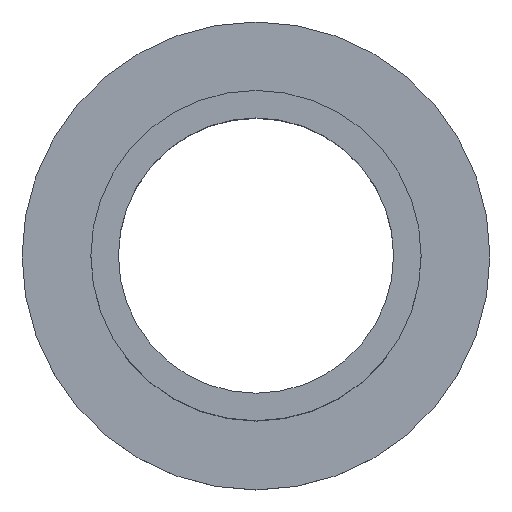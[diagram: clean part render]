
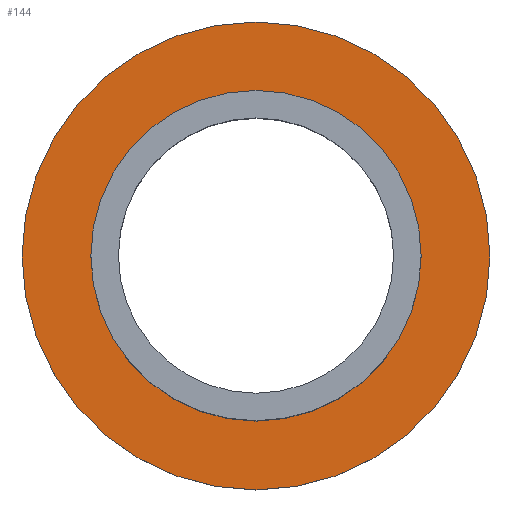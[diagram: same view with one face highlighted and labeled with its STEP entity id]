
A CAD part, top view. The second image highlights one B-rep face of the part: STEP entity #144.
In plain terms, the highlighted planar face has unit normal (0, 0, 1).
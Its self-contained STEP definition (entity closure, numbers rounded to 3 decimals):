
#24 = VERTEX_POINT('',#25);
#25 = CARTESIAN_POINT('',(17.,0.,2.));
#32 = CYLINDRICAL_SURFACE('',#33,17.);
#33 = AXIS2_PLACEMENT_3D('',#34,#35,#36);
#34 = CARTESIAN_POINT('',(0.,0.,0.));
#35 = DIRECTION('',(-0.,-0.,-1.));
#36 = DIRECTION('',(1.,0.,0.));
#51 = EDGE_CURVE('',#24,#24,#52,.T.);
#52 = SURFACE_CURVE('',#53,(#58,#65),.PCURVE_S1.);
#53 = CIRCLE('',#54,17.);
#54 = AXIS2_PLACEMENT_3D('',#55,#56,#57);
#55 = CARTESIAN_POINT('',(0.,0.,2.));
#56 = DIRECTION('',(0.,0.,1.));
#57 = DIRECTION('',(1.,0.,0.));
#58 = PCURVE('',#32,#59);
#59 = DEFINITIONAL_REPRESENTATION('',(#60),#64);
#60 = LINE('',#61,#62);
#61 = CARTESIAN_POINT('',(-0.,-2.));
#62 = VECTOR('',#63,1.);
#63 = DIRECTION('',(-1.,0.));
#64 = ( GEOMETRIC_REPRESENTATION_CONTEXT(2) 
PARAMETRIC_REPRESENTATION_CONTEXT() REPRESENTATION_CONTEXT('2D SPACE',''
  ) );
#65 = PCURVE('',#66,#71);
#66 = PLANE('',#67);
#67 = AXIS2_PLACEMENT_3D('',#68,#69,#70);
#68 = CARTESIAN_POINT('',(0.,0.,2.));
#69 = DIRECTION('',(0.,0.,1.));
#70 = DIRECTION('',(1.,0.,-0.));
#71 = DEFINITIONAL_REPRESENTATION('',(#72),#76);
#72 = CIRCLE('',#73,17.);
#73 = AXIS2_PLACEMENT_2D('',#74,#75);
#74 = CARTESIAN_POINT('',(0.,0.));
#75 = DIRECTION('',(1.,0.));
#76 = ( GEOMETRIC_REPRESENTATION_CONTEXT(2) 
PARAMETRIC_REPRESENTATION_CONTEXT() REPRESENTATION_CONTEXT('2D SPACE',''
  ) );
#144 = ADVANCED_FACE('',(#145,#148),#66,.T.);
#145 = FACE_BOUND('',#146,.T.);
#146 = EDGE_LOOP('',(#147));
#147 = ORIENTED_EDGE('',*,*,#51,.T.);
#148 = FACE_BOUND('',#149,.T.);
#149 = EDGE_LOOP('',(#150));
#150 = ORIENTED_EDGE('',*,*,#151,.T.);
#151 = EDGE_CURVE('',#152,#152,#154,.T.);
#152 = VERTEX_POINT('',#153);
#153 = CARTESIAN_POINT('',(12.,0.,2.));
#154 = SURFACE_CURVE('',#155,(#160,#171),.PCURVE_S1.);
#155 = CIRCLE('',#156,12.);
#156 = AXIS2_PLACEMENT_3D('',#157,#158,#159);
#157 = CARTESIAN_POINT('',(0.,0.,2.));
#158 = DIRECTION('',(0.,0.,-1.));
#159 = DIRECTION('',(1.,0.,0.));
#160 = PCURVE('',#66,#161);
#161 = DEFINITIONAL_REPRESENTATION('',(#162),#170);
#162 = ( BOUNDED_CURVE() B_SPLINE_CURVE(2,(#163,#164,#165,#166,#167,#168
,#169),.UNSPECIFIED.,.T.,.F.) B_SPLINE_CURVE_WITH_KNOTS((1,2,2,2,2,1),(
    -2.094,0.,2.094,4.189,6.283,
8.378),.UNSPECIFIED.) CURVE() GEOMETRIC_REPRESENTATION_ITEM() 
RATIONAL_B_SPLINE_CURVE((1.,0.5,1.,0.5,1.,0.5,1.)) REPRESENTATION_ITEM(
  '') );
#163 = CARTESIAN_POINT('',(12.,0.));
#164 = CARTESIAN_POINT('',(12.,-20.785));
#165 = CARTESIAN_POINT('',(-6.,-10.392));
#166 = CARTESIAN_POINT('',(-24.,0.));
#167 = CARTESIAN_POINT('',(-6.,10.392));
#168 = CARTESIAN_POINT('',(12.,20.785));
#169 = CARTESIAN_POINT('',(12.,0.));
#170 = ( GEOMETRIC_REPRESENTATION_CONTEXT(2) 
PARAMETRIC_REPRESENTATION_CONTEXT() REPRESENTATION_CONTEXT('2D SPACE',''
  ) );
#171 = PCURVE('',#172,#177);
#172 = CYLINDRICAL_SURFACE('',#173,12.);
#173 = AXIS2_PLACEMENT_3D('',#174,#175,#176);
#174 = CARTESIAN_POINT('',(0.,0.,0.));
#175 = DIRECTION('',(-0.,-0.,-1.));
#176 = DIRECTION('',(1.,0.,0.));
#177 = DEFINITIONAL_REPRESENTATION('',(#178),#182);
#178 = LINE('',#179,#180);
#179 = CARTESIAN_POINT('',(-6.283,-2.));
#180 = VECTOR('',#181,1.);
#181 = DIRECTION('',(1.,-0.));
#182 = ( GEOMETRIC_REPRESENTATION_CONTEXT(2) 
PARAMETRIC_REPRESENTATION_CONTEXT() REPRESENTATION_CONTEXT('2D SPACE',''
  ) );
